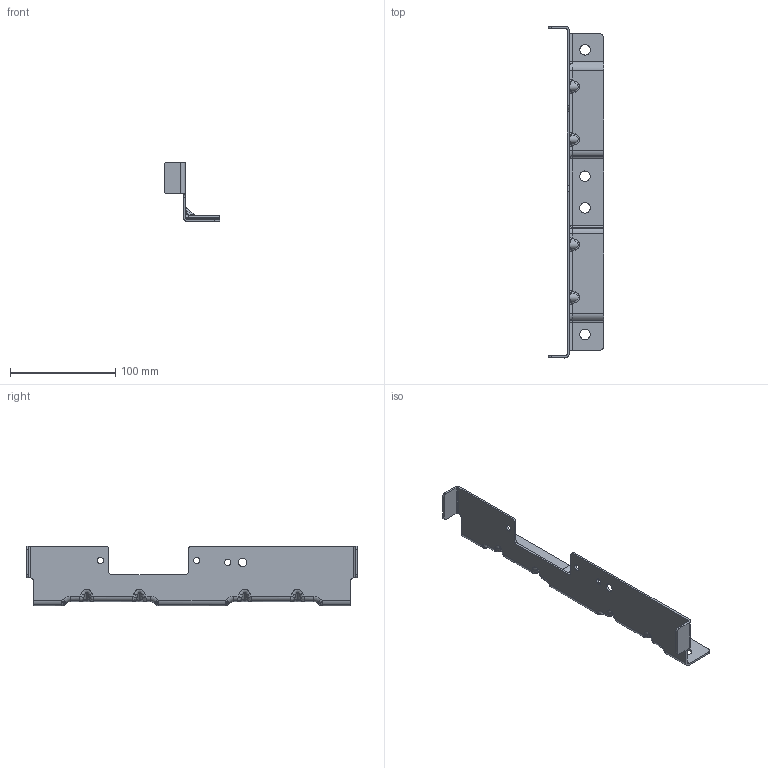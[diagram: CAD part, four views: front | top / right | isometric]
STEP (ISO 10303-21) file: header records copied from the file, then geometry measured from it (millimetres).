
FILE_DESCRIPTION(('CATIA V5 STEP Exchange'),'2;1');
FILE_NAME('D:\杨逍（新）\06-李燕龙\2023.1.9-G3新开件2D图纸-李燕龙\钣金单件图纸\SHT0015280-后安装支架\SHT0015280.stp','2023-01-11T06:29:35+00:00',('none'),('none'),'CATIA Version 5 Release 20 GA (IN-10)','CATIA V5 STEP AP214','none');
FILE_SCHEMA(('AUTOMOTIVE_DESIGN { 1 0 10303 214 1 1 1 1 }'));
Length unit declared in the file: millimetre
Products named in the file (1): Part60
Bounding box: 53 x 315 x 56.5 mm (x, y, z)
Volume: 49663.3 mm3; surface area: 51906.3 mm2
Topology: 1 solids, 1 shells, 261 faces, 674 edges, 403 vertices
Faces by surface type: cylinder 157, plane 52, bspline 32, sphere 12, torus 8
Entity records: 11198 total; most frequent: CARTESIAN_POINT 5500, ORIENTED_EDGE 1324, DIRECTION 885, EDGE_CURVE 662, VERTEX_POINT 403, AXIS2_PLACEMENT_3D 380, VECTOR 293, LINE 293
